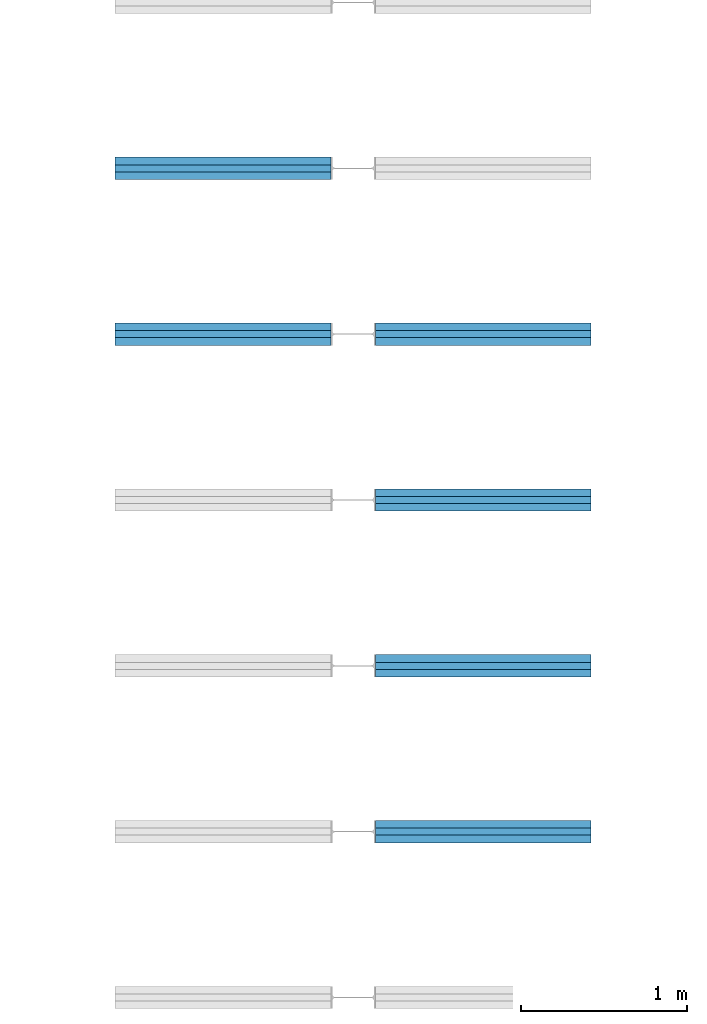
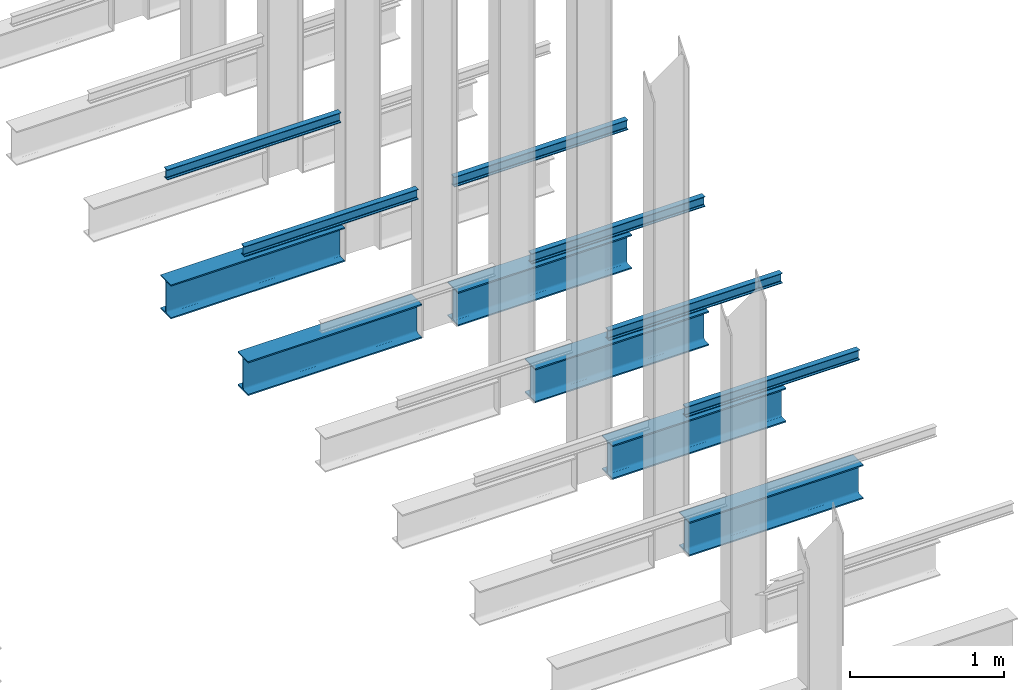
# One storey, part 169 of 302: 12 beams.
"""IFC2X3 building model written with IfcOpenShell, lengths in metres."""

from ifc_helpers import new_model, entity, si_unit, converted_unit, derived_unit, direction, frame, frame_2d, origin, place, context, subcontext, project, spatial, polyline, circle_curve, parameter, trimmed, segment, composite_curve, i_section, outline, extrude, material, type_object, element, save


model = new_model("IFC2X3")

# Units and contexts
model_context = context("Model", 3, precision=1e-05, world=origin(), true_north=direction((6.12303176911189e-17, 1.0)))
body_context = subcontext(model_context, "Body", "Model", "MODEL_VIEW")
ifc_project = project(units=[si_unit("LENGTHUNIT", "METRE"), si_unit("AREAUNIT", "SQUARE_METRE"), si_unit("VOLUMEUNIT", "CUBIC_METRE"), converted_unit("PLANEANGLEUNIT", "DEGREE", entity("IfcRatioMeasure", 0.0174532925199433), si_unit("PLANEANGLEUNIT", "RADIAN"), dimensions=[0, 0, 0, 0, 0, 0, 0]), si_unit("MASSUNIT", "GRAM", prefix="KILO"), derived_unit("MASSDENSITYUNIT", [(si_unit("MASSUNIT", "GRAM", prefix="KILO"), 1), (si_unit("LENGTHUNIT", "METRE"), -3)]), derived_unit("MOMENTOFINERTIAUNIT", [(si_unit("LENGTHUNIT", "METRE"), 4)]), si_unit("TIMEUNIT", "SECOND"), si_unit("FREQUENCYUNIT", "HERTZ"), si_unit("THERMODYNAMICTEMPERATUREUNIT", "DEGREE_CELSIUS"), derived_unit("THERMALTRANSMITTANCEUNIT", [(si_unit("MASSUNIT", "GRAM", prefix="KILO"), 1), (si_unit("THERMODYNAMICTEMPERATUREUNIT", "KELVIN"), -1), (si_unit("TIMEUNIT", "SECOND"), -3)]), derived_unit("VOLUMETRICFLOWRATEUNIT", [(si_unit("LENGTHUNIT", "METRE"), 3), (si_unit("TIMEUNIT", "SECOND"), -1)]), si_unit("ELECTRICCURRENTUNIT", "AMPERE"), si_unit("ELECTRICVOLTAGEUNIT", "VOLT"), si_unit("POWERUNIT", "WATT"), si_unit("FORCEUNIT", "NEWTON", prefix="KILO"), si_unit("ILLUMINANCEUNIT", "LUX"), si_unit("LUMINOUSFLUXUNIT", "LUMEN"), si_unit("LUMINOUSINTENSITYUNIT", "CANDELA"), derived_unit("USERDEFINED", [(si_unit("MASSUNIT", "GRAM", prefix="KILO"), -1), (si_unit("LENGTHUNIT", "METRE"), -2), (si_unit("TIMEUNIT", "SECOND"), 3), (si_unit("LUMINOUSFLUXUNIT", "LUMEN"), 1)]), derived_unit("LINEARVELOCITYUNIT", [(si_unit("LENGTHUNIT", "METRE"), 1), (si_unit("TIMEUNIT", "SECOND"), -1)]), si_unit("PRESSUREUNIT", "PASCAL"), derived_unit("USERDEFINED", [(si_unit("LENGTHUNIT", "METRE"), -2), (si_unit("MASSUNIT", "GRAM", prefix="KILO"), 1), (si_unit("TIMEUNIT", "SECOND"), -2)]), derived_unit("LINEARFORCEUNIT", [(si_unit("MASSUNIT", "GRAM", prefix="KILO"), 1), (si_unit("LENGTHUNIT", "METRE"), 1), (si_unit("TIMEUNIT", "SECOND"), -2), (si_unit("LENGTHUNIT", "METRE"), -1)]), derived_unit("PLANARFORCEUNIT", [(si_unit("MASSUNIT", "GRAM", prefix="KILO"), 1), (si_unit("LENGTHUNIT", "METRE"), 1), (si_unit("TIMEUNIT", "SECOND"), -2), (si_unit("LENGTHUNIT", "METRE"), -2)])], contexts=[model_context])

# Site, building, storey
site_placement = place(None, origin())
site = spatial("IfcSite", under=ifc_project, at=site_placement, Name="Default", CompositionType="ELEMENT")
building_placement = place(site_placement, origin())
building = spatial("IfcBuilding", under=site, at=building_placement, CompositionType="ELEMENT")
storey_placement = place(building_placement, frame((0.0, 0.0, -1.3)))
storey = spatial("IfcBuildingStorey", under=building, at=storey_placement, Name="00_EG", CompositionType="ELEMENT", Elevation=-1.3)

# Beams
ifc_material = material(Name="Metall - Baustahl S235")
beam_type_1 = type_object("IfcBeamType", Name="IPN Träger:IPN 80", PredefinedType="NOTDEFINED")
beam_1_placement = place(storey_placement, frame((-164.910111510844, 36.036588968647, 2.42), z_axis=(0.0, 0.0, 1.0), x_axis=(-1.0, 0.0, 0.0)))
element("IfcBeam", 1, at=beam_1_placement, inside=storey, type_object=beam_type_1, material=ifc_material, Name="IPN Träger:IPN 80", ObjectType="IPN Träger:IPN 80", context=body_context, shape_type="SweptSolid", body=[
    extrude(outline(composite_curve([segment(polyline([(0.0375704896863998, -0.0209999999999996), (0.0399999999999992, -0.0209999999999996)]), True, "CONTINUOUS"), segment(polyline([(0.0399999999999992, -0.0209999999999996), (0.0399999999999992, 0.0209999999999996)]), True, "CONTINUOUS"), segment(polyline([(0.039999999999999, 0.0209999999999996), (0.037570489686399, 0.0209999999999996)]), True, "CONTINUOUS"), segment(trimmed(circle_curve(frame_2d((0.037570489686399, 0.0187000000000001), x_axis=(0.0, 1.0)), 0.00230000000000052), [parameter(0.0)], [parameter(82.0299999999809)], True, "PARAMETER"), True, "CONTINUOUS"), segment(polyline([(0.0352927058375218, 0.0190189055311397), (0.0333732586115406, 0.00530924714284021)]), True, "CONTINUOUS"), segment(trimmed(circle_curve(frame_2d((0.0295109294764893, 0.00584999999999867), x_axis=(0.990340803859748, -0.138654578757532)), 0.00389999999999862), [parameter(277.969999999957)], [parameter(0.0)], True, "PARAMETER"), False, "CONTINUOUS"), segment(polyline([(0.0295109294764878, 0.00194999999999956), (-0.0295109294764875, 0.00194999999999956)]), True, "CONTINUOUS"), segment(trimmed(circle_curve(frame_2d((-0.029510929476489, 0.00584999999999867), x_axis=(0.0, -1.0)), 0.00389999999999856), [parameter(277.969999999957)], [parameter(0.0)], True, "PARAMETER"), False, "CONTINUOUS"), segment(polyline([(-0.0333732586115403, 0.00530924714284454), (-0.0352927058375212, 0.019018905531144)]), True, "CONTINUOUS"), segment(trimmed(circle_curve(frame_2d((-0.0375704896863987, 0.0187000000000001), x_axis=(0.990340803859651, 0.138654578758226)), 0.00230000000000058), [parameter(0.0)], [parameter(82.029999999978)], True, "PARAMETER"), True, "CONTINUOUS"), segment(polyline([(-0.0375704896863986, 0.0209999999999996), (-0.0400000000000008, 0.0209999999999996)]), True, "CONTINUOUS"), segment(polyline([(-0.0400000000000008, 0.0209999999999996), (-0.0400000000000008, -0.0209999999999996)]), True, "CONTINUOUS"), segment(polyline([(-0.0400000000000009, -0.0209999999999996), (-0.037570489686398, -0.0209999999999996)]), True, "CONTINUOUS"), segment(trimmed(circle_curve(frame_2d((-0.0375704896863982, -0.0187000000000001), x_axis=(0.0, -1.0)), 0.00230000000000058), [parameter(0.0)], [parameter(82.029999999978)], True, "PARAMETER"), True, "CONTINUOUS"), segment(polyline([(-0.0352927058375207, -0.0190189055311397), (-0.0333732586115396, -0.00530924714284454)]), True, "CONTINUOUS"), segment(trimmed(circle_curve(frame_2d((-0.0295109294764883, -0.00584999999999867), x_axis=(-0.990340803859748, 0.138654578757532)), 0.00389999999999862), [parameter(277.969999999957)], [parameter(0.0)], True, "PARAMETER"), False, "CONTINUOUS"), segment(polyline([(-0.0295109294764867, -0.00194999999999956), (0.0295109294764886, -0.00194999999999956)]), True, "CONTINUOUS"), segment(trimmed(circle_curve(frame_2d((0.0295109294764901, -0.00584999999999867), x_axis=(0.0, 1.0)), 0.00389999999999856), [parameter(277.969999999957)], [parameter(0.0)], True, "PARAMETER"), False, "CONTINUOUS"), segment(polyline([(0.0333732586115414, -0.00530924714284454), (0.0352927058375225, -0.019018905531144)]), True, "CONTINUOUS"), segment(trimmed(circle_curve(frame_2d((0.0375704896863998, -0.0187000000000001), x_axis=(-0.990340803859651, -0.138654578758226)), 0.00230000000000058), [parameter(0.0)], [parameter(82.029999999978)], True, "PARAMETER"), True, "CONTINUOUS")], self_intersect=False)), frame((0.000100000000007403, 0.0209999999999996, -0.0400000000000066), z_axis=(1.0, 0.0, 0.0), x_axis=(0.0, 0.0, -1.0)), (0.0, 0.0, 1.0), 1.29990000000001),
])
beam_2_placement = place(storey_placement, frame((-164.640111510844, 34.994588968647, 2.42)))
element("IfcBeam", 2, at=beam_2_placement, inside=storey, type_object=beam_type_1, material=ifc_material, Name="IPN Träger:IPN 80", ObjectType="IPN Träger:IPN 80", context=body_context, shape_type="SweptSolid", body=[
    extrude(outline(composite_curve([segment(polyline([(0.0375704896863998, -0.0210000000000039), (0.0399999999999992, -0.0210000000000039)]), True, "CONTINUOUS"), segment(polyline([(0.0399999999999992, -0.0210000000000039), (0.0399999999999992, 0.0209999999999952)]), True, "CONTINUOUS"), segment(polyline([(0.039999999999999, 0.0209999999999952), (0.037570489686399, 0.0209999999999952)]), True, "CONTINUOUS"), segment(trimmed(circle_curve(frame_2d((0.037570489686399, 0.0186999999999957), x_axis=(0.0, 1.0)), 0.00230000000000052), [parameter(0.0)], [parameter(82.0299999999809)], True, "PARAMETER"), True, "CONTINUOUS"), segment(polyline([(0.0352927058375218, 0.0190189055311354), (0.0333732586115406, 0.00530924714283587)]), True, "CONTINUOUS"), segment(trimmed(circle_curve(frame_2d((0.0295109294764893, 0.00584999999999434), x_axis=(0.990340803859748, -0.138654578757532)), 0.00389999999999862), [parameter(277.969999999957)], [parameter(0.0)], True, "PARAMETER"), False, "CONTINUOUS"), segment(polyline([(0.0295109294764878, 0.00194999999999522), (-0.0295109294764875, 0.00194999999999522)]), True, "CONTINUOUS"), segment(trimmed(circle_curve(frame_2d((-0.029510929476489, 0.00584999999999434), x_axis=(0.0, -1.0)), 0.00389999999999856), [parameter(277.969999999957)], [parameter(0.0)], True, "PARAMETER"), False, "CONTINUOUS"), segment(polyline([(-0.0333732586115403, 0.0053092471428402), (-0.0352927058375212, 0.0190189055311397)]), True, "CONTINUOUS"), segment(trimmed(circle_curve(frame_2d((-0.0375704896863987, 0.0186999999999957), x_axis=(0.990340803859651, 0.138654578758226)), 0.00230000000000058), [parameter(0.0)], [parameter(82.029999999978)], True, "PARAMETER"), True, "CONTINUOUS"), segment(polyline([(-0.0375704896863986, 0.0209999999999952), (-0.0400000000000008, 0.0209999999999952)]), True, "CONTINUOUS"), segment(polyline([(-0.0400000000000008, 0.0209999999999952), (-0.0400000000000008, -0.0210000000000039)]), True, "CONTINUOUS"), segment(polyline([(-0.0400000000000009, -0.0210000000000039), (-0.037570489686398, -0.0210000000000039)]), True, "CONTINUOUS"), segment(trimmed(circle_curve(frame_2d((-0.0375704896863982, -0.0187000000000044), x_axis=(0.0, -1.0)), 0.00230000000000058), [parameter(0.0)], [parameter(82.029999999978)], True, "PARAMETER"), True, "CONTINUOUS"), segment(polyline([(-0.0352927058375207, -0.019018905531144), (-0.0333732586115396, -0.00530924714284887)]), True, "CONTINUOUS"), segment(trimmed(circle_curve(frame_2d((-0.0295109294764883, -0.005850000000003), x_axis=(-0.990340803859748, 0.138654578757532)), 0.00389999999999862), [parameter(277.969999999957)], [parameter(0.0)], True, "PARAMETER"), False, "CONTINUOUS"), segment(polyline([(-0.0295109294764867, -0.00195000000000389), (0.0295109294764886, -0.00195000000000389)]), True, "CONTINUOUS"), segment(trimmed(circle_curve(frame_2d((0.0295109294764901, -0.005850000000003), x_axis=(0.0, 1.0)), 0.00389999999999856), [parameter(277.969999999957)], [parameter(0.0)], True, "PARAMETER"), False, "CONTINUOUS"), segment(polyline([(0.0333732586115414, -0.00530924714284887), (0.0352927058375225, -0.0190189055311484)]), True, "CONTINUOUS"), segment(trimmed(circle_curve(frame_2d((0.0375704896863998, -0.0187000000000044), x_axis=(-0.990340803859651, -0.138654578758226)), 0.00230000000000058), [parameter(0.0)], [parameter(82.029999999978)], True, "PARAMETER"), True, "CONTINUOUS")], self_intersect=False)), frame((9.99999999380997e-05, 0.0210000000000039, -0.0400000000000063), z_axis=(1.0, 0.0, 0.0), x_axis=(0.0, 0.0, -1.0)), (0.0, 0.0, 1.0), 1.29990000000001),
])
beam_3_placement = place(storey_placement, frame((-164.910111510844, 35.036588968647, 2.42), z_axis=(0.0, 0.0, 1.0), x_axis=(-1.0, 0.0, 0.0)))
element("IfcBeam", 3, at=beam_3_placement, inside=storey, type_object=beam_type_1, material=ifc_material, Name="IPN Träger:IPN 80", ObjectType="IPN Träger:IPN 80", context=body_context, shape_type="SweptSolid", body=[
    extrude(outline(composite_curve([segment(polyline([(0.0375704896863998, -0.0209999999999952), (0.0399999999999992, -0.0209999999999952)]), True, "CONTINUOUS"), segment(polyline([(0.0399999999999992, -0.0209999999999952), (0.0399999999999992, 0.0210000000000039)]), True, "CONTINUOUS"), segment(polyline([(0.039999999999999, 0.0210000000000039), (0.037570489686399, 0.0210000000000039)]), True, "CONTINUOUS"), segment(trimmed(circle_curve(frame_2d((0.037570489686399, 0.0187000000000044), x_axis=(0.0, 1.0)), 0.00230000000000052), [parameter(0.0)], [parameter(82.0299999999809)], True, "PARAMETER"), True, "CONTINUOUS"), segment(polyline([(0.0352927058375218, 0.019018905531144), (0.0333732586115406, 0.00530924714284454)]), True, "CONTINUOUS"), segment(trimmed(circle_curve(frame_2d((0.0295109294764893, 0.005850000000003), x_axis=(0.990340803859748, -0.138654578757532)), 0.00389999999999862), [parameter(277.969999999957)], [parameter(0.0)], True, "PARAMETER"), False, "CONTINUOUS"), segment(polyline([(0.0295109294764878, 0.00195000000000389), (-0.0295109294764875, 0.00195000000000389)]), True, "CONTINUOUS"), segment(trimmed(circle_curve(frame_2d((-0.029510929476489, 0.005850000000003), x_axis=(0.0, -1.0)), 0.00389999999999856), [parameter(277.969999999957)], [parameter(0.0)], True, "PARAMETER"), False, "CONTINUOUS"), segment(polyline([(-0.0333732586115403, 0.00530924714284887), (-0.0352927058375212, 0.0190189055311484)]), True, "CONTINUOUS"), segment(trimmed(circle_curve(frame_2d((-0.0375704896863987, 0.0187000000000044), x_axis=(0.990340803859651, 0.138654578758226)), 0.00230000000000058), [parameter(0.0)], [parameter(82.029999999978)], True, "PARAMETER"), True, "CONTINUOUS"), segment(polyline([(-0.0375704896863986, 0.0210000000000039), (-0.0400000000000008, 0.0210000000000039)]), True, "CONTINUOUS"), segment(polyline([(-0.0400000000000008, 0.0210000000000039), (-0.0400000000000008, -0.0209999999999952)]), True, "CONTINUOUS"), segment(polyline([(-0.0400000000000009, -0.0209999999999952), (-0.037570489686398, -0.0209999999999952)]), True, "CONTINUOUS"), segment(trimmed(circle_curve(frame_2d((-0.0375704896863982, -0.0186999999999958), x_axis=(0.0, -1.0)), 0.00230000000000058), [parameter(0.0)], [parameter(82.029999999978)], True, "PARAMETER"), True, "CONTINUOUS"), segment(polyline([(-0.0352927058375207, -0.0190189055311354), (-0.0333732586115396, -0.00530924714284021)]), True, "CONTINUOUS"), segment(trimmed(circle_curve(frame_2d((-0.0295109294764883, -0.00584999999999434), x_axis=(-0.990340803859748, 0.138654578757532)), 0.00389999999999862), [parameter(277.969999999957)], [parameter(0.0)], True, "PARAMETER"), False, "CONTINUOUS"), segment(polyline([(-0.0295109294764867, -0.00194999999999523), (0.0295109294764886, -0.00194999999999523)]), True, "CONTINUOUS"), segment(trimmed(circle_curve(frame_2d((0.0295109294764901, -0.00584999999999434), x_axis=(0.0, 1.0)), 0.00389999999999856), [parameter(277.969999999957)], [parameter(0.0)], True, "PARAMETER"), False, "CONTINUOUS"), segment(polyline([(0.0333732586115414, -0.00530924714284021), (0.0352927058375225, -0.0190189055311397)]), True, "CONTINUOUS"), segment(trimmed(circle_curve(frame_2d((0.0375704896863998, -0.0186999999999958), x_axis=(-0.990340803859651, -0.138654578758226)), 0.00230000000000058), [parameter(0.0)], [parameter(82.029999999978)], True, "PARAMETER"), True, "CONTINUOUS")], self_intersect=False)), frame((0.000100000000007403, 0.0209999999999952, -0.0400000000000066), z_axis=(1.0, 0.0, 0.0), x_axis=(0.0, 0.0, -1.0)), (0.0, 0.0, 1.0), 1.29990000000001),
])
beam_4_placement = place(storey_placement, frame((-164.640111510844, 33.994588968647, 2.42)))
element("IfcBeam", 4, at=beam_4_placement, inside=storey, type_object=beam_type_1, material=ifc_material, Name="IPN Träger:IPN 80", ObjectType="IPN Träger:IPN 80", context=body_context, shape_type="SweptSolid", body=[
    extrude(outline(composite_curve([segment(polyline([(0.0375704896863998, -0.0209999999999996), (0.0399999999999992, -0.0209999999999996)]), True, "CONTINUOUS"), segment(polyline([(0.0399999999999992, -0.0209999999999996), (0.0399999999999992, 0.0209999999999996)]), True, "CONTINUOUS"), segment(polyline([(0.039999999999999, 0.0209999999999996), (0.037570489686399, 0.0209999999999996)]), True, "CONTINUOUS"), segment(trimmed(circle_curve(frame_2d((0.037570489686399, 0.0187000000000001), x_axis=(0.0, 1.0)), 0.00230000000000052), [parameter(0.0)], [parameter(82.0299999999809)], True, "PARAMETER"), True, "CONTINUOUS"), segment(polyline([(0.0352927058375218, 0.0190189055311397), (0.0333732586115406, 0.00530924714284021)]), True, "CONTINUOUS"), segment(trimmed(circle_curve(frame_2d((0.0295109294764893, 0.00584999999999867), x_axis=(0.990340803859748, -0.138654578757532)), 0.00389999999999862), [parameter(277.969999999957)], [parameter(0.0)], True, "PARAMETER"), False, "CONTINUOUS"), segment(polyline([(0.0295109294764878, 0.00194999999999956), (-0.0295109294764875, 0.00194999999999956)]), True, "CONTINUOUS"), segment(trimmed(circle_curve(frame_2d((-0.029510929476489, 0.00584999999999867), x_axis=(0.0, -1.0)), 0.00389999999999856), [parameter(277.969999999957)], [parameter(0.0)], True, "PARAMETER"), False, "CONTINUOUS"), segment(polyline([(-0.0333732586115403, 0.00530924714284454), (-0.0352927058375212, 0.019018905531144)]), True, "CONTINUOUS"), segment(trimmed(circle_curve(frame_2d((-0.0375704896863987, 0.0187000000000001), x_axis=(0.990340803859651, 0.138654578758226)), 0.00230000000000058), [parameter(0.0)], [parameter(82.029999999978)], True, "PARAMETER"), True, "CONTINUOUS"), segment(polyline([(-0.0375704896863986, 0.0209999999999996), (-0.0400000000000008, 0.0209999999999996)]), True, "CONTINUOUS"), segment(polyline([(-0.0400000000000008, 0.0209999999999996), (-0.0400000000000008, -0.0209999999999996)]), True, "CONTINUOUS"), segment(polyline([(-0.0400000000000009, -0.0209999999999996), (-0.037570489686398, -0.0209999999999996)]), True, "CONTINUOUS"), segment(trimmed(circle_curve(frame_2d((-0.0375704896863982, -0.0187000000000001), x_axis=(0.0, -1.0)), 0.00230000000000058), [parameter(0.0)], [parameter(82.029999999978)], True, "PARAMETER"), True, "CONTINUOUS"), segment(polyline([(-0.0352927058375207, -0.0190189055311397), (-0.0333732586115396, -0.00530924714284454)]), True, "CONTINUOUS"), segment(trimmed(circle_curve(frame_2d((-0.0295109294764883, -0.00584999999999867), x_axis=(-0.990340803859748, 0.138654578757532)), 0.00389999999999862), [parameter(277.969999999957)], [parameter(0.0)], True, "PARAMETER"), False, "CONTINUOUS"), segment(polyline([(-0.0295109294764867, -0.00194999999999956), (0.0295109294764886, -0.00194999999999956)]), True, "CONTINUOUS"), segment(trimmed(circle_curve(frame_2d((0.0295109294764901, -0.00584999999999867), x_axis=(0.0, 1.0)), 0.00389999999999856), [parameter(277.969999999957)], [parameter(0.0)], True, "PARAMETER"), False, "CONTINUOUS"), segment(polyline([(0.0333732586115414, -0.00530924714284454), (0.0352927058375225, -0.019018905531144)]), True, "CONTINUOUS"), segment(trimmed(circle_curve(frame_2d((0.0375704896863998, -0.0187000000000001), x_axis=(-0.990340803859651, -0.138654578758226)), 0.00230000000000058), [parameter(0.0)], [parameter(82.029999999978)], True, "PARAMETER"), True, "CONTINUOUS")], self_intersect=False)), frame((9.99999999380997e-05, 0.0209999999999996, -0.0400000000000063), z_axis=(1.0, 0.0, 0.0), x_axis=(0.0, 0.0, -1.0)), (0.0, 0.0, 1.0), 1.29990000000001),
])
beam_5_placement = place(storey_placement, frame((-164.640111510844, 32.994588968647, 2.42)))
element("IfcBeam", 5, at=beam_5_placement, inside=storey, type_object=beam_type_1, material=ifc_material, Name="IPN Träger:IPN 80", ObjectType="IPN Träger:IPN 80", context=body_context, shape_type="SweptSolid", body=[
    extrude(outline(composite_curve([segment(polyline([(0.0375704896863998, -0.0210000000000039), (0.0399999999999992, -0.0210000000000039)]), True, "CONTINUOUS"), segment(polyline([(0.0399999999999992, -0.0210000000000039), (0.0399999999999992, 0.0209999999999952)]), True, "CONTINUOUS"), segment(polyline([(0.039999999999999, 0.0209999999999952), (0.037570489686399, 0.0209999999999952)]), True, "CONTINUOUS"), segment(trimmed(circle_curve(frame_2d((0.037570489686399, 0.0186999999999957), x_axis=(0.0, 1.0)), 0.00230000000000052), [parameter(0.0)], [parameter(82.0299999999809)], True, "PARAMETER"), True, "CONTINUOUS"), segment(polyline([(0.0352927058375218, 0.0190189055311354), (0.0333732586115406, 0.00530924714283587)]), True, "CONTINUOUS"), segment(trimmed(circle_curve(frame_2d((0.0295109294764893, 0.00584999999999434), x_axis=(0.990340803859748, -0.138654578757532)), 0.00389999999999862), [parameter(277.969999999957)], [parameter(0.0)], True, "PARAMETER"), False, "CONTINUOUS"), segment(polyline([(0.0295109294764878, 0.00194999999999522), (-0.0295109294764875, 0.00194999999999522)]), True, "CONTINUOUS"), segment(trimmed(circle_curve(frame_2d((-0.029510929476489, 0.00584999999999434), x_axis=(0.0, -1.0)), 0.00389999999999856), [parameter(277.969999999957)], [parameter(0.0)], True, "PARAMETER"), False, "CONTINUOUS"), segment(polyline([(-0.0333732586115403, 0.0053092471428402), (-0.0352927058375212, 0.0190189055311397)]), True, "CONTINUOUS"), segment(trimmed(circle_curve(frame_2d((-0.0375704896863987, 0.0186999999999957), x_axis=(0.990340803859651, 0.138654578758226)), 0.00230000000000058), [parameter(0.0)], [parameter(82.029999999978)], True, "PARAMETER"), True, "CONTINUOUS"), segment(polyline([(-0.0375704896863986, 0.0209999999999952), (-0.0400000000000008, 0.0209999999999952)]), True, "CONTINUOUS"), segment(polyline([(-0.0400000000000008, 0.0209999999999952), (-0.0400000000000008, -0.0210000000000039)]), True, "CONTINUOUS"), segment(polyline([(-0.0400000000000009, -0.0210000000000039), (-0.037570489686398, -0.0210000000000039)]), True, "CONTINUOUS"), segment(trimmed(circle_curve(frame_2d((-0.0375704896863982, -0.0187000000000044), x_axis=(0.0, -1.0)), 0.00230000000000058), [parameter(0.0)], [parameter(82.029999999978)], True, "PARAMETER"), True, "CONTINUOUS"), segment(polyline([(-0.0352927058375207, -0.019018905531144), (-0.0333732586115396, -0.00530924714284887)]), True, "CONTINUOUS"), segment(trimmed(circle_curve(frame_2d((-0.0295109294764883, -0.005850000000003), x_axis=(-0.990340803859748, 0.138654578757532)), 0.00389999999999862), [parameter(277.969999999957)], [parameter(0.0)], True, "PARAMETER"), False, "CONTINUOUS"), segment(polyline([(-0.0295109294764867, -0.00195000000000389), (0.0295109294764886, -0.00195000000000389)]), True, "CONTINUOUS"), segment(trimmed(circle_curve(frame_2d((0.0295109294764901, -0.005850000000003), x_axis=(0.0, 1.0)), 0.00389999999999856), [parameter(277.969999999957)], [parameter(0.0)], True, "PARAMETER"), False, "CONTINUOUS"), segment(polyline([(0.0333732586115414, -0.00530924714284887), (0.0352927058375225, -0.0190189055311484)]), True, "CONTINUOUS"), segment(trimmed(circle_curve(frame_2d((0.0375704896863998, -0.0187000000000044), x_axis=(-0.990340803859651, -0.138654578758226)), 0.00230000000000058), [parameter(0.0)], [parameter(82.029999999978)], True, "PARAMETER"), True, "CONTINUOUS")], self_intersect=False)), frame((9.99999999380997e-05, 0.0210000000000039, -0.0400000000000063), z_axis=(1.0, 0.0, 0.0), x_axis=(0.0, 0.0, -1.0)), (0.0, 0.0, 1.0), 1.29990000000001),
])
beam_6_placement = place(storey_placement, frame((-164.640111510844, 31.994588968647, 2.42)))
element("IfcBeam", 6, at=beam_6_placement, inside=storey, type_object=beam_type_1, material=ifc_material, Name="IPN Träger:IPN 80", ObjectType="IPN Träger:IPN 80", context=body_context, shape_type="SweptSolid", body=[
    extrude(outline(composite_curve([segment(polyline([(0.0375704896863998, -0.0209999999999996), (0.0399999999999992, -0.0209999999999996)]), True, "CONTINUOUS"), segment(polyline([(0.0399999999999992, -0.0209999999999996), (0.0399999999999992, 0.0209999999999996)]), True, "CONTINUOUS"), segment(polyline([(0.039999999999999, 0.0209999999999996), (0.037570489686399, 0.0209999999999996)]), True, "CONTINUOUS"), segment(trimmed(circle_curve(frame_2d((0.037570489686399, 0.0187000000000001), x_axis=(0.0, 1.0)), 0.00230000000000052), [parameter(0.0)], [parameter(82.0299999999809)], True, "PARAMETER"), True, "CONTINUOUS"), segment(polyline([(0.0352927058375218, 0.0190189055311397), (0.0333732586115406, 0.00530924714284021)]), True, "CONTINUOUS"), segment(trimmed(circle_curve(frame_2d((0.0295109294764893, 0.00584999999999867), x_axis=(0.990340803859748, -0.138654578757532)), 0.00389999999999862), [parameter(277.969999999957)], [parameter(0.0)], True, "PARAMETER"), False, "CONTINUOUS"), segment(polyline([(0.0295109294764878, 0.00194999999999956), (-0.0295109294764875, 0.00194999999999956)]), True, "CONTINUOUS"), segment(trimmed(circle_curve(frame_2d((-0.029510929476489, 0.00584999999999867), x_axis=(0.0, -1.0)), 0.00389999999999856), [parameter(277.969999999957)], [parameter(0.0)], True, "PARAMETER"), False, "CONTINUOUS"), segment(polyline([(-0.0333732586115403, 0.00530924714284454), (-0.0352927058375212, 0.019018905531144)]), True, "CONTINUOUS"), segment(trimmed(circle_curve(frame_2d((-0.0375704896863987, 0.0187000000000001), x_axis=(0.990340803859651, 0.138654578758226)), 0.00230000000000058), [parameter(0.0)], [parameter(82.029999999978)], True, "PARAMETER"), True, "CONTINUOUS"), segment(polyline([(-0.0375704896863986, 0.0209999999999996), (-0.0400000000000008, 0.0209999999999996)]), True, "CONTINUOUS"), segment(polyline([(-0.0400000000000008, 0.0209999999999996), (-0.0400000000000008, -0.0209999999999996)]), True, "CONTINUOUS"), segment(polyline([(-0.0400000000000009, -0.0209999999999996), (-0.037570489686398, -0.0209999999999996)]), True, "CONTINUOUS"), segment(trimmed(circle_curve(frame_2d((-0.0375704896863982, -0.0187000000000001), x_axis=(0.0, -1.0)), 0.00230000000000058), [parameter(0.0)], [parameter(82.029999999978)], True, "PARAMETER"), True, "CONTINUOUS"), segment(polyline([(-0.0352927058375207, -0.0190189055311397), (-0.0333732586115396, -0.00530924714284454)]), True, "CONTINUOUS"), segment(trimmed(circle_curve(frame_2d((-0.0295109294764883, -0.00584999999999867), x_axis=(-0.990340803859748, 0.138654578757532)), 0.00389999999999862), [parameter(277.969999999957)], [parameter(0.0)], True, "PARAMETER"), False, "CONTINUOUS"), segment(polyline([(-0.0295109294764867, -0.00194999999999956), (0.0295109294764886, -0.00194999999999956)]), True, "CONTINUOUS"), segment(trimmed(circle_curve(frame_2d((0.0295109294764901, -0.00584999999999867), x_axis=(0.0, 1.0)), 0.00389999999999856), [parameter(277.969999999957)], [parameter(0.0)], True, "PARAMETER"), False, "CONTINUOUS"), segment(polyline([(0.0333732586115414, -0.00530924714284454), (0.0352927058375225, -0.019018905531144)]), True, "CONTINUOUS"), segment(trimmed(circle_curve(frame_2d((0.0375704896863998, -0.0187000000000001), x_axis=(-0.990340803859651, -0.138654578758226)), 0.00230000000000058), [parameter(0.0)], [parameter(82.029999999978)], True, "PARAMETER"), True, "CONTINUOUS")], self_intersect=False)), frame((9.99999999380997e-05, 0.0209999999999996, -0.0400000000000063), z_axis=(1.0, 0.0, 0.0), x_axis=(0.0, 0.0, -1.0)), (0.0, 0.0, 1.0), 1.29990000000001),
])
beam_type_2 = type_object("IfcBeamType", Name="IPE Träger:IPE 270", PredefinedType="NOTDEFINED")
beam_7_placement = place(storey_placement, frame((-164.640111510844, 32.083088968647, 1.54000000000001)))
element("IfcBeam", 7, at=beam_7_placement, inside=storey, type_object=beam_type_2, material=ifc_material, Name="IPE Träger:IPE 270", ObjectType="IPE Träger:IPE 270", context=body_context, shape_type="SweptSolid", body=[
    extrude(i_section(OverallWidth=0.134999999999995, OverallDepth=0.27, WebThickness=0.00660000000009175, FlangeThickness=0.0102000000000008, FilletRadius=0.0150000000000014, at=frame_2d((5.96744875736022e-16, 2.16493489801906e-15), x_axis=(0.0, 1.0))), frame((9.99999999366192e-05, -0.0674999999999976, -0.135000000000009), z_axis=(1.0, 0.0, 0.0), x_axis=(0.0, 0.0, -1.0)), (0.0, 0.0, 1.0), 1.29990000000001),
])
beam_8_placement = place(storey_placement, frame((-164.640111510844, 33.083088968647, 1.54000000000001)))
element("IfcBeam", 8, at=beam_8_placement, inside=storey, type_object=beam_type_2, material=ifc_material, Name="IPE Träger:IPE 270", ObjectType="IPE Träger:IPE 270", context=body_context, shape_type="SweptSolid", body=[
    extrude(i_section(OverallWidth=0.134999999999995, OverallDepth=0.27, WebThickness=0.00660000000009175, FlangeThickness=0.0102000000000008, FilletRadius=0.0150000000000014, at=frame_2d((5.96744875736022e-16, 1.08246744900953e-14), x_axis=(0.0, 1.0))), frame((9.99999999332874e-05, -0.0675000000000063, -0.135000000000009), z_axis=(1.0, 0.0, 0.0), x_axis=(0.0, 0.0, -1.0)), (0.0, 0.0, 1.0), 1.29990000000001),
])
beam_9_placement = place(storey_placement, frame((-164.640111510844, 34.083088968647, 1.54000000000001)))
element("IfcBeam", 9, at=beam_9_placement, inside=storey, type_object=beam_type_2, material=ifc_material, Name="IPE Träger:IPE 270", ObjectType="IPE Träger:IPE 270", context=body_context, shape_type="SweptSolid", body=[
    extrude(i_section(OverallWidth=0.134999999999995, OverallDepth=0.27, WebThickness=0.00660000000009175, FlangeThickness=0.0102000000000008, FilletRadius=0.0150000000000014, at=frame_2d((5.96744875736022e-16, 2.16493489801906e-15), x_axis=(0.0, 1.0))), frame((9.99999999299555e-05, -0.0674999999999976, -0.135000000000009), z_axis=(1.0, 0.0, 0.0), x_axis=(0.0, 0.0, -1.0)), (0.0, 0.0, 1.0), 1.29990000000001),
])
beam_10_placement = place(storey_placement, frame((-164.910111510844, 35.083088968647, 1.54000000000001), z_axis=(0.0, 0.0, 1.0), x_axis=(-1.0, 0.0, 0.0)))
element("IfcBeam", 10, at=beam_10_placement, inside=storey, type_object=beam_type_2, material=ifc_material, Name="IPE Träger:IPE 270", ObjectType="IPE Träger:IPE 270", context=body_context, shape_type="SweptSolid", body=[
    extrude(i_section(OverallWidth=0.134999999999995, OverallDepth=0.27, WebThickness=0.00660000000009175, FlangeThickness=0.0102000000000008, FilletRadius=0.0150000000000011, at=frame_2d((5.96744875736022e-16, 2.16493489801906e-15), x_axis=(0.0, 1.0))), frame((9.9999999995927e-05, 0.0674999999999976, -0.135000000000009), z_axis=(1.0, 0.0, 0.0), x_axis=(0.0, 0.0, -1.0)), (0.0, 0.0, 1.0), 1.29990000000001),
])
beam_11_placement = place(storey_placement, frame((-164.640111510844, 35.083088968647, 1.54000000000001)))
element("IfcBeam", 11, at=beam_11_placement, inside=storey, type_object=beam_type_2, material=ifc_material, Name="IPE Träger:IPE 270", ObjectType="IPE Träger:IPE 270", context=body_context, shape_type="SweptSolid", body=[
    extrude(i_section(OverallWidth=0.134999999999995, OverallDepth=0.27, WebThickness=0.00660000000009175, FlangeThickness=0.0102000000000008, FilletRadius=0.0150000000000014, at=frame_2d((5.96744875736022e-16, -2.16493489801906e-15), x_axis=(0.0, 1.0))), frame((9.99999999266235e-05, -0.0674999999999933, -0.135000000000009), z_axis=(1.0, 0.0, 0.0), x_axis=(0.0, 0.0, -1.0)), (0.0, 0.0, 1.0), 1.29990000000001),
])
beam_12_placement = place(storey_placement, frame((-164.910111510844, 36.083088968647, 1.54000000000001), z_axis=(0.0, 0.0, 1.0), x_axis=(-1.0, 0.0, 0.0)))
element("IfcBeam", 12, at=beam_12_placement, inside=storey, type_object=beam_type_2, material=ifc_material, Name="IPE Träger:IPE 270", ObjectType="IPE Träger:IPE 270", context=body_context, shape_type="SweptSolid", body=[
    extrude(i_section(OverallWidth=0.134999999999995, OverallDepth=0.27, WebThickness=0.00660000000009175, FlangeThickness=0.0102000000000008, FilletRadius=0.0150000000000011, at=frame_2d((5.96744875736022e-16, -6.49480469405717e-15), x_axis=(0.0, 1.0))), frame((9.99999999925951e-05, 0.0675000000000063, -0.135000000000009), z_axis=(1.0, 0.0, 0.0), x_axis=(0.0, 0.0, -1.0)), (0.0, 0.0, 1.0), 1.29990000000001),
])

save(model, "model.ifc")
